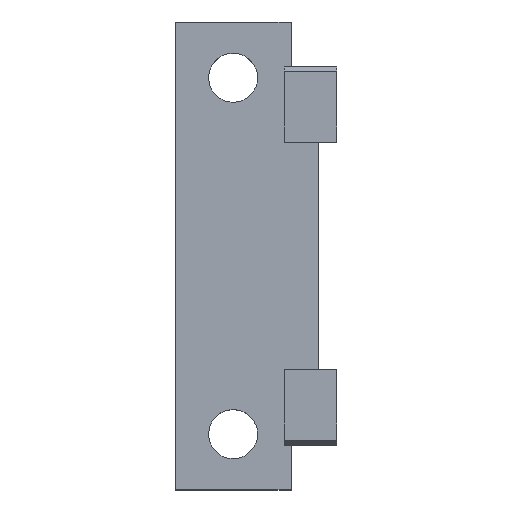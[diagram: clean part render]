
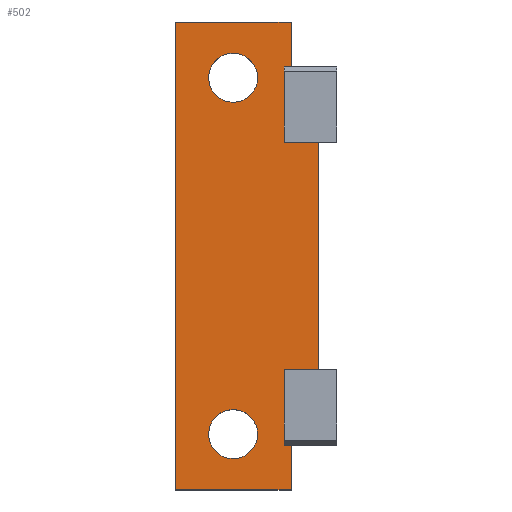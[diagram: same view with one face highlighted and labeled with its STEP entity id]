
A CAD part, top view. The second image highlights one B-rep face of the part: STEP entity #502.
In plain terms, the highlighted planar face has unit normal (0, 0, 1).
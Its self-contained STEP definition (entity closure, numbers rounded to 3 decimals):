
#19=FACE_BOUND('',#59,.T.);
#20=FACE_BOUND('',#60,.T.);
#23=CIRCLE('',#543,1.1);
#24=CIRCLE('',#544,1.1);
#32=FACE_OUTER_BOUND('',#58,.T.);
#58=EDGE_LOOP('',(#343,#344,#345,#346,#347,#348,#349,#350,#351,#352,#353,
#354));
#59=EDGE_LOOP('',(#355));
#60=EDGE_LOOP('',(#356));
#87=LINE('',#713,#151);
#95=LINE('',#729,#159);
#96=LINE('',#731,#160);
#97=LINE('',#733,#161);
#98=LINE('',#735,#162);
#99=LINE('',#737,#163);
#100=LINE('',#739,#164);
#101=LINE('',#741,#165);
#102=LINE('',#743,#166);
#103=LINE('',#745,#167);
#104=LINE('',#747,#168);
#105=LINE('',#748,#169);
#151=VECTOR('',#579,1.);
#159=VECTOR('',#589,1.);
#160=VECTOR('',#590,1.);
#161=VECTOR('',#591,1.);
#162=VECTOR('',#592,1.);
#163=VECTOR('',#593,1.);
#164=VECTOR('',#594,1.);
#165=VECTOR('',#595,1.);
#166=VECTOR('',#596,1.);
#167=VECTOR('',#597,1.);
#168=VECTOR('',#598,1.);
#169=VECTOR('',#599,1.);
#215=VERTEX_POINT('',#711);
#216=VERTEX_POINT('',#712);
#223=VERTEX_POINT('',#728);
#224=VERTEX_POINT('',#730);
#225=VERTEX_POINT('',#732);
#226=VERTEX_POINT('',#734);
#227=VERTEX_POINT('',#736);
#228=VERTEX_POINT('',#738);
#229=VERTEX_POINT('',#740);
#230=VERTEX_POINT('',#742);
#231=VERTEX_POINT('',#744);
#232=VERTEX_POINT('',#746);
#233=VERTEX_POINT('',#749);
#234=VERTEX_POINT('',#751);
#263=EDGE_CURVE('',#215,#216,#87,.T.);
#271=EDGE_CURVE('',#215,#223,#95,.T.);
#272=EDGE_CURVE('',#223,#224,#96,.T.);
#273=EDGE_CURVE('',#224,#225,#97,.T.);
#274=EDGE_CURVE('',#225,#226,#98,.T.);
#275=EDGE_CURVE('',#227,#226,#99,.T.);
#276=EDGE_CURVE('',#227,#228,#100,.T.);
#277=EDGE_CURVE('',#228,#229,#101,.T.);
#278=EDGE_CURVE('',#229,#230,#102,.T.);
#279=EDGE_CURVE('',#231,#230,#103,.T.);
#280=EDGE_CURVE('',#231,#232,#104,.T.);
#281=EDGE_CURVE('',#216,#232,#105,.T.);
#282=EDGE_CURVE('',#233,#233,#23,.T.);
#283=EDGE_CURVE('',#234,#234,#24,.T.);
#343=ORIENTED_EDGE('',*,*,#263,.F.);
#344=ORIENTED_EDGE('',*,*,#271,.T.);
#345=ORIENTED_EDGE('',*,*,#272,.T.);
#346=ORIENTED_EDGE('',*,*,#273,.T.);
#347=ORIENTED_EDGE('',*,*,#274,.T.);
#348=ORIENTED_EDGE('',*,*,#275,.F.);
#349=ORIENTED_EDGE('',*,*,#276,.T.);
#350=ORIENTED_EDGE('',*,*,#277,.T.);
#351=ORIENTED_EDGE('',*,*,#278,.T.);
#352=ORIENTED_EDGE('',*,*,#279,.F.);
#353=ORIENTED_EDGE('',*,*,#280,.T.);
#354=ORIENTED_EDGE('',*,*,#281,.F.);
#355=ORIENTED_EDGE('',*,*,#282,.F.);
#356=ORIENTED_EDGE('',*,*,#283,.F.);
#480=PLANE('',#542);
#502=ADVANCED_FACE('',(#32,#19,#20),#480,.T.);
#542=AXIS2_PLACEMENT_3D('',#727,#587,#588);
#543=AXIS2_PLACEMENT_3D('',#750,#600,#601);
#544=AXIS2_PLACEMENT_3D('',#752,#602,#603);
#579=DIRECTION('',(0.,1.,0.));
#587=DIRECTION('center_axis',(0.,0.,1.));
#588=DIRECTION('ref_axis',(1.,0.,0.));
#589=DIRECTION('',(1.,0.,0.));
#590=DIRECTION('',(0.,1.,0.));
#591=DIRECTION('',(-1.,0.,0.));
#592=DIRECTION('',(0.,1.,0.));
#593=DIRECTION('',(-1.,0.,0.));
#594=DIRECTION('',(0.,1.,0.));
#595=DIRECTION('',(-1.,0.,0.));
#596=DIRECTION('',(0.,1.,0.));
#597=DIRECTION('',(-1.,0.,0.));
#598=DIRECTION('',(0.,1.,0.));
#599=DIRECTION('',(1.,0.,0.));
#600=DIRECTION('center_axis',(0.,0.,1.));
#601=DIRECTION('ref_axis',(1.,0.,0.));
#602=DIRECTION('center_axis',(0.,0.,1.));
#603=DIRECTION('ref_axis',(1.,0.,0.));
#711=CARTESIAN_POINT('',(31.6,12.5,-12.7));
#712=CARTESIAN_POINT('',(31.6,33.5,-12.7));
#713=CARTESIAN_POINT('',(31.6,12.5,-12.7));
#727=CARTESIAN_POINT('Origin',(31.6,15.9,-12.7));
#728=CARTESIAN_POINT('',(36.8,12.5,-12.7));
#729=CARTESIAN_POINT('',(31.6,12.5,-12.7));
#730=CARTESIAN_POINT('',(36.8,14.5,-12.7));
#731=CARTESIAN_POINT('',(36.8,12.5,-12.7));
#732=CARTESIAN_POINT('',(36.5,14.5,-12.7));
#733=CARTESIAN_POINT('',(34.05,14.5,-12.7));
#734=CARTESIAN_POINT('',(36.5,17.9,-12.7));
#735=CARTESIAN_POINT('',(36.5,15.2,-12.7));
#736=CARTESIAN_POINT('',(38.05,17.9,-12.7));
#737=CARTESIAN_POINT('',(34.05,17.9,-12.7));
#738=CARTESIAN_POINT('',(38.05,28.1,-12.7));
#739=CARTESIAN_POINT('',(38.05,15.9,-12.7));
#740=CARTESIAN_POINT('',(36.5,28.1,-12.7));
#741=CARTESIAN_POINT('',(34.05,28.1,-12.7));
#742=CARTESIAN_POINT('',(36.5,31.5,-12.7));
#743=CARTESIAN_POINT('',(36.5,22.,-12.7));
#744=CARTESIAN_POINT('',(36.8,31.5,-12.7));
#745=CARTESIAN_POINT('',(34.05,31.5,-12.7));
#746=CARTESIAN_POINT('',(36.8,33.5,-12.7));
#747=CARTESIAN_POINT('',(36.8,28.5,-12.7));
#748=CARTESIAN_POINT('',(31.6,33.5,-12.7));
#749=CARTESIAN_POINT('',(33.1,15.,-12.7));
#750=CARTESIAN_POINT('Origin',(34.2,15.,-12.7));
#751=CARTESIAN_POINT('',(33.1,31.,-12.7));
#752=CARTESIAN_POINT('Origin',(34.2,31.,-12.7));
